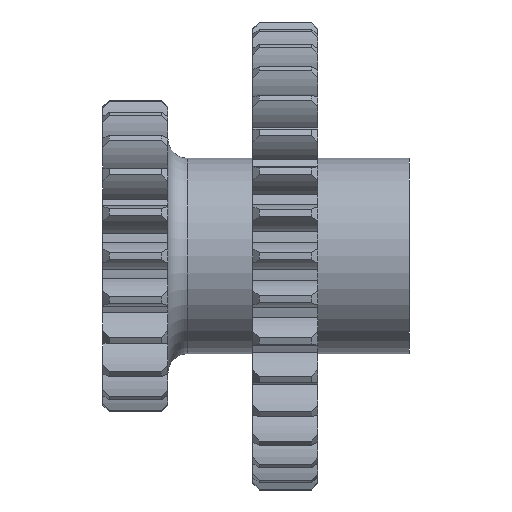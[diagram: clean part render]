
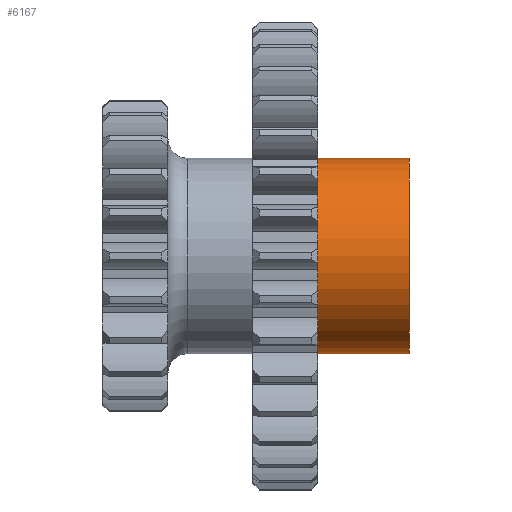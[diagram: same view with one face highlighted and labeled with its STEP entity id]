
A CAD part, front view. The second image highlights one B-rep face of the part: STEP entity #6167.
In plain terms, the highlighted cylindrical face has radius 15 mm (diameter 30 mm), a full revolution.
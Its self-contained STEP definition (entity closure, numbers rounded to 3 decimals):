
#360=FACE_BOUND('',#1547,.T.);
#469=CIRCLE('',#6640,15.);
#470=CIRCLE('',#6642,15.);
#945=CYLINDRICAL_SURFACE('',#6641,15.);
#1183=FACE_OUTER_BOUND('',#1546,.T.);
#1546=EDGE_LOOP('',(#4203));
#1547=EDGE_LOOP('',(#4204));
#2465=VERTEX_POINT('',#9773);
#2466=VERTEX_POINT('',#9776);
#3160=EDGE_CURVE('',#2465,#2465,#469,.T.);
#3161=EDGE_CURVE('',#2466,#2466,#470,.T.);
#4203=ORIENTED_EDGE('',*,*,#3161,.F.);
#4204=ORIENTED_EDGE('',*,*,#3160,.F.);
#6167=ADVANCED_FACE('',(#1183,#360),#945,.T.);
#6640=AXIS2_PLACEMENT_3D('',#9774,#7691,#7692);
#6641=AXIS2_PLACEMENT_3D('',#9775,#7693,#7694);
#6642=AXIS2_PLACEMENT_3D('',#9777,#7695,#7696);
#7691=DIRECTION('center_axis',(-1.,0.,0.));
#7692=DIRECTION('ref_axis',(0.,-1.,0.));
#7693=DIRECTION('center_axis',(1.,0.,0.));
#7694=DIRECTION('ref_axis',(0.,-1.,0.));
#7695=DIRECTION('center_axis',(1.,0.,0.));
#7696=DIRECTION('ref_axis',(0.,-1.,0.));
#9773=CARTESIAN_POINT('',(33.,15.,0.));
#9774=CARTESIAN_POINT('Origin',(33.,0.,0.));
#9775=CARTESIAN_POINT('Origin',(0.,0.,0.));
#9776=CARTESIAN_POINT('',(47.,15.,0.));
#9777=CARTESIAN_POINT('Origin',(47.,0.,0.));
